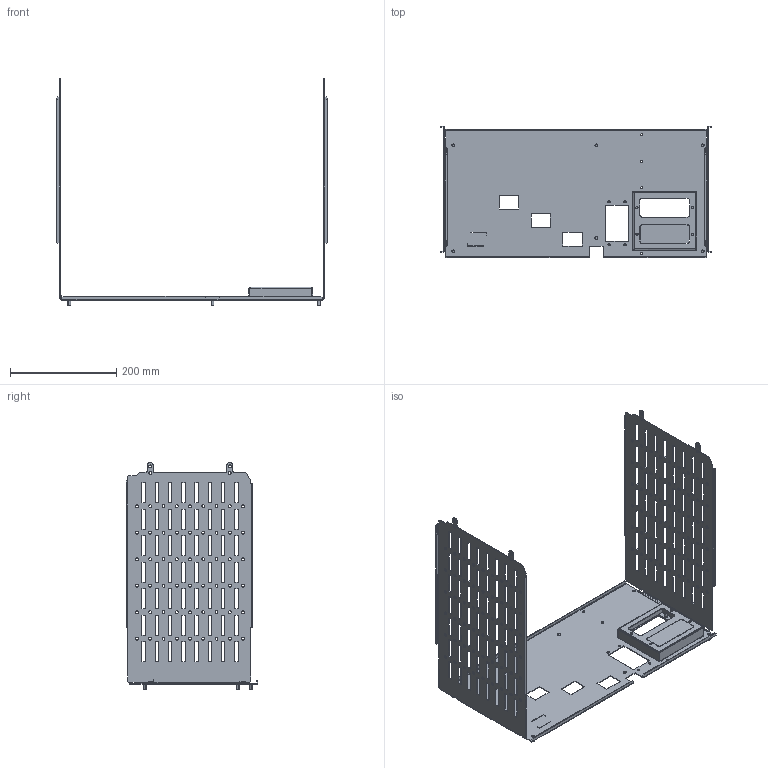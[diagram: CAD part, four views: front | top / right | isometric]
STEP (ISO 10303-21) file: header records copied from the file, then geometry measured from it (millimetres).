
FILE_DESCRIPTION(('CAx-IF Rec.Pracs.---Model Styling and Organization---1.2---2011-12-15','CAx-IF Rec.Pracs.---Geometric and Assembly Validation Properties---4.1---2014-06-16','CAx-IF Rec.Pracs.---PMI Polyline Presentation---2.0---2013-05-24'),'2;1');
FILE_NAME('R5M2W5M1A21.stp','2021-05-05T12:25:29+03:00',(''),(''),'STEP Interface 4.4 by CT CoreTechnologie','3D_Evolution4.4 by CT CoreTechnologie','');
FILE_SCHEMA(('AUTOMOTIVE_DESIGN { 1 0 10303 214 1 1 1 1 }'));
Length unit declared in the file: millimetre
Products named in the file (6): R5M2W5M1A21; RB.1285.00.00.0_-10; RB.1285.00.00.0_-11; M5x8-DIN7500C_stright; RB.1257.00.00.0_-04; RB.1568.00.00.0_-00
Assembly tree (14 placements, depth 2):
  R5M2W5M1A21
    RB.1285.00.00.0_-10
    RB.1285.00.00.0_-11
    M5x8-DIN7500C_stright  x10
    RB.1257.00.00.0_-04
    RB.1568.00.00.0_-00
Bounding box: 510 x 247.5 x 428.6 mm (x, y, z)
Surface area: 605834.3 mm2 (no closed solid volume)
Topology: 0 solids, 15 shells, 1081 faces, 3152 edges, 2093 vertices
Faces by surface type: plane 699, cylinder 374, bspline 8
Entity records: 36669 total; most frequent: CARTESIAN_POINT 6541, ORIENTED_EDGE 6196, DIRECTION 5892, EDGE_CURVE 3098, VECTOR 2380, LINE 2380, VERTEX_POINT 2057, AXIS2_PLACEMENT_3D 1756
